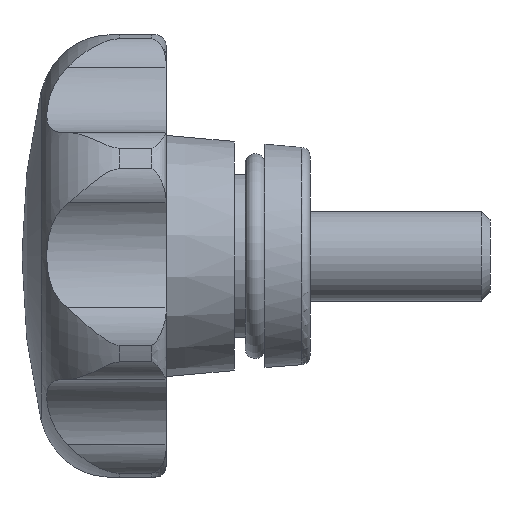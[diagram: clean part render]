
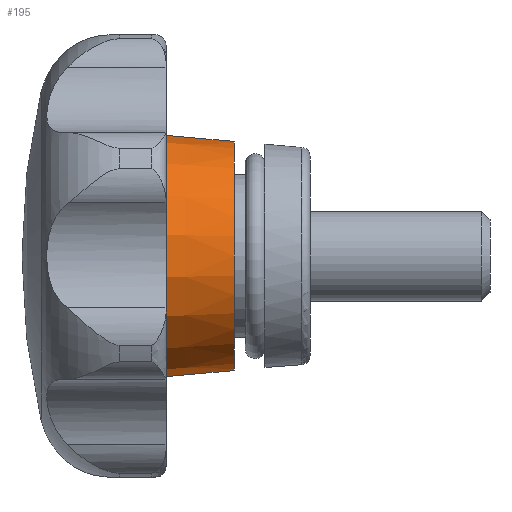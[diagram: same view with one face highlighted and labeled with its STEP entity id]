
A CAD part, left-side view. The second image highlights one B-rep face of the part: STEP entity #195.
In plain terms, the highlighted conical face has half-angle 5 degrees and reference radius 7.093 mm.
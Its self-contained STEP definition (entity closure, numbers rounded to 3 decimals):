
#195 = ADVANCED_FACE( '', ( #377, #378 ), #379, .T. );
#377 = FACE_BOUND( '', #709, .T. );
#378 = FACE_OUTER_BOUND( '', #710, .T. );
#379 = CONICAL_SURFACE( '', #711, 7.093, 0.087 );
#709 = EDGE_LOOP( '', ( #1170 ) );
#710 = EDGE_LOOP( '', ( #1171 ) );
#711 = AXIS2_PLACEMENT_3D( '', #1172, #1173, #1174 );
#1170 = ORIENTED_EDGE( '', *, *, #2127, .F. );
#1171 = ORIENTED_EDGE( '', *, *, #2128, .T. );
#1172 = CARTESIAN_POINT( '', ( 0., 12.517, 0. ) );
#1173 = DIRECTION( '', ( 0., 1., 0. ) );
#1174 = DIRECTION( '', ( 0., 0., 1. ) );
#2127 = EDGE_CURVE( '', #2543, #2543, #2544, .T. );
#2128 = EDGE_CURVE( '', #2545, #2545, #2546, .T. );
#2543 = VERTEX_POINT( '', #3605 );
#2544 = CIRCLE( '', #3606, 6.366 );
#2545 = VERTEX_POINT( '', #3607 );
#2546 = CIRCLE( '', #3608, 7.093 );
#3605 = CARTESIAN_POINT( '', ( 0., 4.2, -6.366 ) );
#3606 = AXIS2_PLACEMENT_3D( '', #4506, #4507, #4508 );
#3607 = CARTESIAN_POINT( '', ( 0., 12.517, -7.093 ) );
#3608 = AXIS2_PLACEMENT_3D( '', #4509, #4510, #4511 );
#4506 = CARTESIAN_POINT( '', ( 0., 4.2, 0. ) );
#4507 = DIRECTION( '', ( 0., -1., 0. ) );
#4508 = DIRECTION( '', ( 0., 0., -1. ) );
#4509 = CARTESIAN_POINT( '', ( 0., 12.517, 0. ) );
#4510 = DIRECTION( '', ( 0., -1., 0. ) );
#4511 = DIRECTION( '', ( 0., 0., -1. ) );
